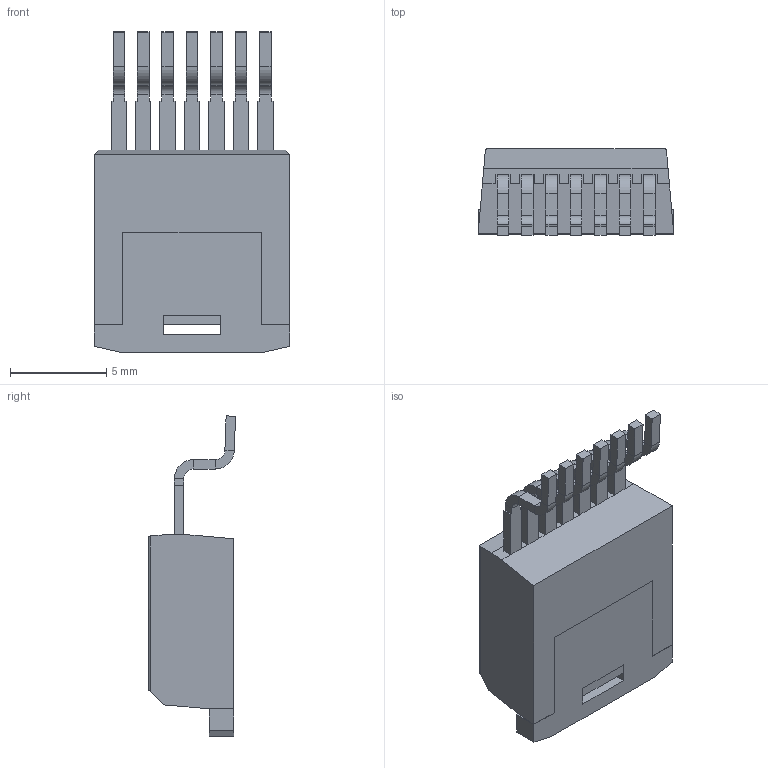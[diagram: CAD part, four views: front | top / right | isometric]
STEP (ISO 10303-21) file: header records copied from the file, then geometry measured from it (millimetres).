
FILE_DESCRIPTION (( 'STEP AP214' ), '1' );
FILE_NAME ('C3M0650090J.STEP', '2022-07-20T12:04:40', ( '' ), ( '' ), 'SwSTEP 2.0', 'SolidWorks 2021', '' );
FILE_SCHEMA (( 'AUTOMOTIVE_DESIGN' ));
Length unit declared in the file: millimetre
Products named in the file (3): C3M0650090J; TO-263-7L_EMC; TO-263-7L_Simulation
Assembly tree (2 placements, depth 2):
  C3M0650090J
    TO-263-7L_Simulation
    TO-263-7L_EMC
Bounding box: 10.19 x 4.53 x 16.66 mm (x, y, z)
Volume: 416.4 mm3; surface area: 772.2 mm2
Topology: 5 solids, 5 shells, 307 faces, 775 edges, 472 vertices
Faces by surface type: plane 263, cylinder 44
Entity records: 9094 total; most frequent: CARTESIAN_POINT 1571, ORIENTED_EDGE 1550, DIRECTION 1479, EDGE_CURVE 775, LINE 687, VECTOR 687, VERTEX_POINT 472, AXIS2_PLACEMENT_3D 396
